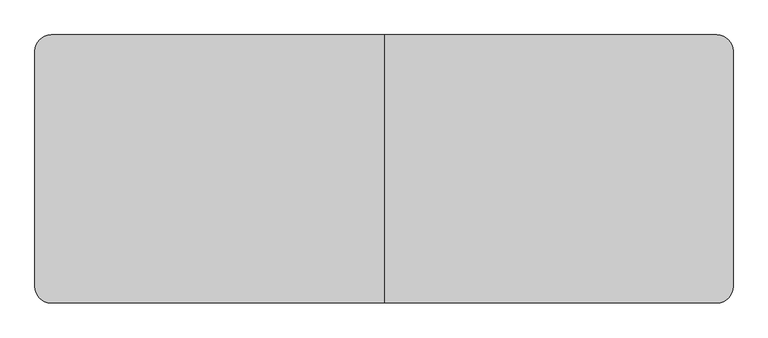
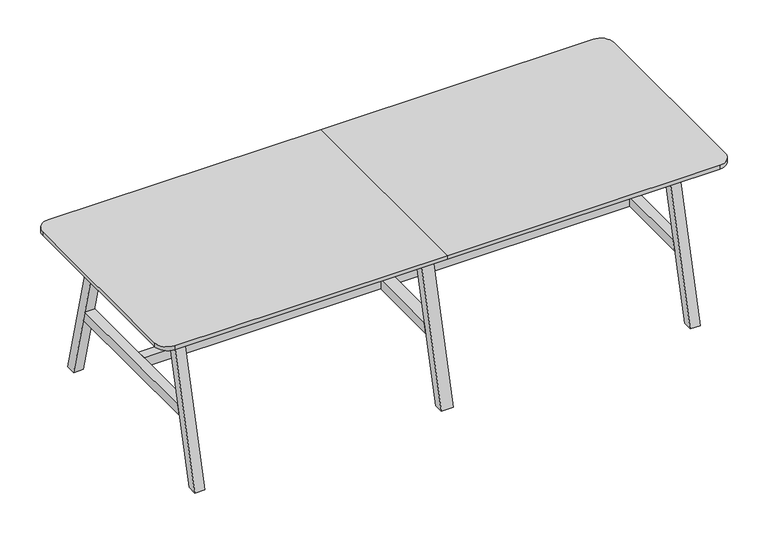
"""IFC4 building model written with IfcOpenShell, lengths in millimetres: furniture geometry, BDG_BossDesign_Tbls_AgentTables6Legs : AGE-DT-6L-2600-1000-3D."""

from ifc_helpers import new_model, si_unit, point, frame, frame_2d, origin, place, context, project, spatial, polyline, circle_curve, trimmed, segment, composite_curve, outline, extrude, source, transform, mapped, element, save


def furniture_430340d5(model_context):
    return source(origin(), model_context, "Body", "SweptSolid", [
        extrude(outline(polyline([(500.0, 0.0), (454.9999949, 0.0), (285.5, 660.0), (330.5000051, 660.0), (500.0, 0.0)])), frame((-27.5, 0.0, 0.0), z_axis=(1.0, 0.0, 0.0), x_axis=(0.0, 1.0, 0.0)), (0.0, 0.0, 1.0), 55.0),
        extrude(outline(polyline([(-500.0, 0.0), (-330.5000051, 660.0), (-285.5, 660.0), (-454.9999949, 0.0), (-500.0, 0.0)])), frame((-27.5, 0.0, 0.0), z_axis=(1.0, 0.0, 0.0), x_axis=(0.0, 1.0, 0.0)), (0.0, 0.0, 1.0), 55.0),
        extrude(outline(polyline([(377.9545427, 300.0), (-377.9545427, 300.0), (-366.3977249, 345.0), (366.3977249, 345.0), (377.9545427, 300.0)])), frame((-27.5, 0.0, 0.0), z_axis=(1.0, 0.0, 0.0), x_axis=(0.0, 1.0, 0.0)), (0.0, 0.0, 1.0), 55.0),
        extrude(outline(composite_curve([segment(polyline([(0.0, 500.0), (0.0, -500.0), (-1240.0, -500.0)]), True, "CONTINUOUS"), segment(trimmed(circle_curve(frame_2d((-1240.0, -440.0)), 60.0), [point((-1240.0, -500.0))], [point((-1300.0, -440.0))], False, "CARTESIAN"), True, "CONTINUOUS"), segment(polyline([(-1300.0, -440.0), (-1300.0, 440.0)]), True, "CONTINUOUS"), segment(trimmed(circle_curve(frame_2d((-1240.0, 440.0)), 60.0), [point((-1300.0, 440.0))], [point((-1240.0, 500.0))], False, "CARTESIAN"), True, "CONTINUOUS"), segment(polyline([(-1240.0, 500.0), (0.0, 500.0)]), True, "CONTINUOUS")], self_intersect=False)), frame((0.0, 0.0, 722.0), z_axis=(0.0, 0.0, 1.0), x_axis=(1.0, 0.0, 0.0)), (0.0, 0.0, 1.0), 18.0),
        extrude(outline(polyline([(-366.3977249, 345.0), (366.3977249, 345.0), (377.9545427, 300.0), (-377.9545427, 300.0), (-366.3977249, 345.0)])), frame((1105.0, 0.0, 0.0), z_axis=(1.0, 0.0, 0.0), x_axis=(0.0, 1.0, 0.0)), (0.0, 0.0, 1.0), 45.0),
        extrude(outline(polyline([(500.0, 0.0), (454.9999949, 0.0), (285.5, 660.0), (330.5000051, 660.0), (500.0, 0.0)])), frame((-1150.0, 0.0, 0.0), z_axis=(1.0, 0.0, 0.0), x_axis=(0.0, 1.0, 0.0)), (0.0, 0.0, 1.0), 45.0),
        extrude(outline(polyline([(-500.0, 0.0), (-330.5000051, 660.0), (-285.5, 660.0), (-454.9999949, 0.0), (-500.0, 0.0)])), frame((-1150.0, 0.0, 0.0), z_axis=(1.0, 0.0, 0.0), x_axis=(0.0, 1.0, 0.0)), (0.0, 0.0, 1.0), 45.0),
        extrude(outline(polyline([(-366.3977249, 345.0), (366.3977249, 345.0), (377.9545427, 300.0), (-377.9545427, 300.0), (-366.3977249, 345.0)])), frame((-1150.0, 0.0, 0.0), z_axis=(1.0, 0.0, 0.0), x_axis=(0.0, 1.0, 0.0)), (0.0, 0.0, 1.0), 45.0),
        extrude(outline(polyline([(-326.6006165, 634.973938), (-304.2770691, 722.0), (-279.5, 722.0), (-301.8235474, 634.973938), (-326.6006165, 634.973938)])), frame((-1105.0, 0.0, 0.0), z_axis=(1.0, 0.0, 0.0), x_axis=(0.0, 1.0, 0.0)), (0.0, 0.0, 1.0), 2210.0),
        extrude(outline(polyline([(326.6006165, 634.973938), (301.8235474, 634.973938), (279.5, 722.0), (304.2770691, 722.0), (326.6006165, 634.973938)])), frame((-1105.0, 0.0, 0.0), z_axis=(1.0, 0.0, 0.0), x_axis=(0.0, 1.0, 0.0)), (0.0, 0.0, 1.0), 2210.0),
        extrude(outline(polyline([(499.7999878, 0.0), (454.7999827, 0.0), (285.5, 660.0), (330.5000051, 660.0), (499.7999878, 0.0)])), frame((1105.0, 0.0, 0.0), z_axis=(1.0, 0.0, 0.0), x_axis=(0.0, 1.0, 0.0)), (0.0, 0.0, 1.0), 45.0),
        extrude(outline(polyline([(-499.7999878, 0.0), (-330.5000051, 660.0), (-285.5, 660.0), (-454.7999827, 0.0), (-499.7999878, 0.0)])), frame((1105.0, 0.0, 0.0), z_axis=(1.0, 0.0, 0.0), x_axis=(0.0, 1.0, 0.0)), (0.0, 0.0, 1.0), 45.0),
        extrude(outline(polyline([(-27.5, 22.5000305), (-27.5, -22.5000305), (-1105.0, -22.5000305), (-1105.0, 22.5000305), (-27.5, 22.5000305)])), frame((0.0, 0.0, 300.0), z_axis=(0.0, 0.0, 1.0), x_axis=(1.0, 0.0, 0.0)), (0.0, 0.0, 1.0), 45.0),
        extrude(outline(polyline([(27.5, -22.5000305), (27.5, 22.5000305), (1105.0, 22.5000305), (1105.0, -22.5000305), (27.5, -22.5000305)])), frame((0.0, 0.0, 300.0), z_axis=(0.0, 0.0, 1.0), x_axis=(1.0, 0.0, 0.0)), (0.0, 0.0, 1.0), 45.0),
        extrude(outline(composite_curve([segment(trimmed(circle_curve(frame_2d((1240.0, 440.0)), 60.0), [point((1240.0, 500.0))], [point((1300.0, 440.0))], False, "CARTESIAN"), True, "CONTINUOUS"), segment(polyline([(1300.0, 440.0), (1300.0, -440.0)]), True, "CONTINUOUS"), segment(trimmed(circle_curve(frame_2d((1240.0, -440.0)), 60.0), [point((1300.0, -440.0))], [point((1240.0, -500.0))], False, "CARTESIAN"), True, "CONTINUOUS"), segment(polyline([(1240.0, -500.0), (0.0, -500.0), (0.0, 500.0), (1240.0, 500.0)]), True, "CONTINUOUS")], self_intersect=False)), frame((0.0, 0.0, 722.0), z_axis=(0.0, 0.0, 1.0), x_axis=(1.0, 0.0, 0.0)), (0.0, 0.0, 1.0), 18.0),
    ])


if __name__ == "__main__":
    model = new_model("IFC4")
    model_context = context("Model", 3, world=origin())
    ifc_project = project(units=[si_unit("LENGTHUNIT", "METRE", prefix="MILLI")], contexts=[model_context])
    site = spatial("IfcSite", under=ifc_project)
    building = spatial("IfcBuilding", under=site)
    placement = place(None, origin())
    furniture_shape = furniture_430340d5(model_context)
    element("IfcFurniture", 1, ObjectType="BDG_BossDesign_Tbls_AgentTables6Legs : AGE-DT-6L-2600-1000-3D", at=placement, inside=building, context=model_context, shape_type="MappedRepresentation", body=[
        mapped(furniture_shape, transform((0.0, 0.0, 0.0), x_axis=(1.0, 0.0, 0.0), y_axis=(0.0, 1.0, 0.0), z_axis=(0.0, 0.0, 1.0))),
    ])
    save(model, "model.ifc")
